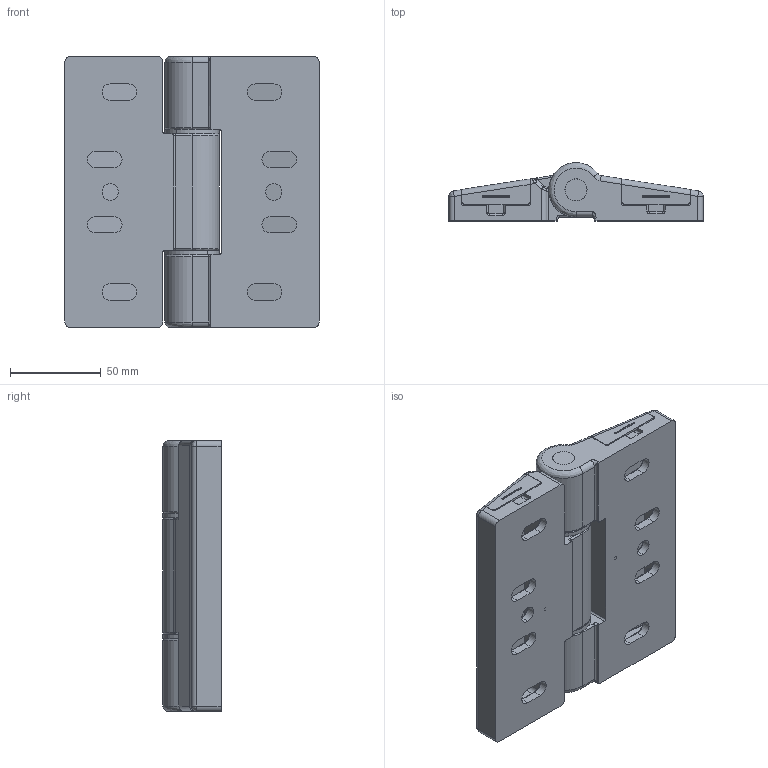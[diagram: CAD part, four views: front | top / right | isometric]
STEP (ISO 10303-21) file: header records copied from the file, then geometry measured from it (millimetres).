
FILE_DESCRIPTION (( 'STEP AP203' ), '1' );
FILE_NAME ('SK2-003-8蝓蟈.STEP', '2025-05-24T07:48:19', ( '' ), ( '' ), 'SwSTEP 2.0', 'SolidWorks 2019', '' );
FILE_SCHEMA (( 'CONFIG_CONTROL_DESIGN' ));
Length unit declared in the file: millimetre
Products named in the file (6): SK2-003-8-1_1; SK2-003-8蝓蟈; SK2-003-8-垫圈_1; SK2-003-8-2_1; SK2-003-8-裔啣_1; SK2-003-8-粣_1
Assembly tree (7 placements, depth 2):
  SK2-003-8蝓蟈
    SK2-003-8-1_1
    SK2-003-8-2_1
    SK2-003-8-垫圈_1  x2
    SK2-003-8-粣_1
    SK2-003-8-裔啣_1  x2
Bounding box: 140 x 31.97 x 149.05 mm (x, y, z)
Volume: 34627.8 mm3; surface area: 110742.8 mm2
Topology: 5 solids, 11 shells, 703 faces, 1723 edges, 1027 vertices
Faces by surface type: cylinder 325, bspline 205, plane 150, torus 23
Entity records: 29030 total; most frequent: CARTESIAN_POINT 14599, ORIENTED_EDGE 3100, DIRECTION 2655, EDGE_CURVE 1556, AXIS2_PLACEMENT_3D 992, VERTEX_POINT 933, EDGE_LOOP 677, VECTOR 671
